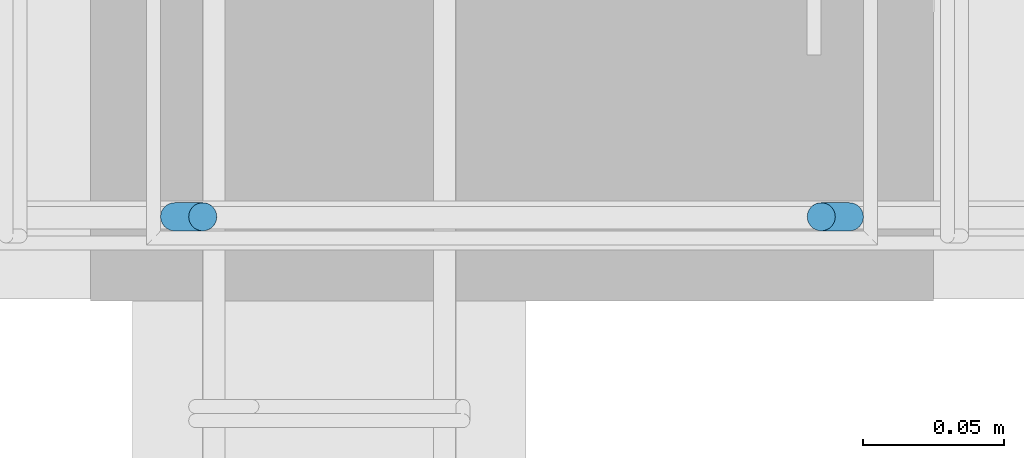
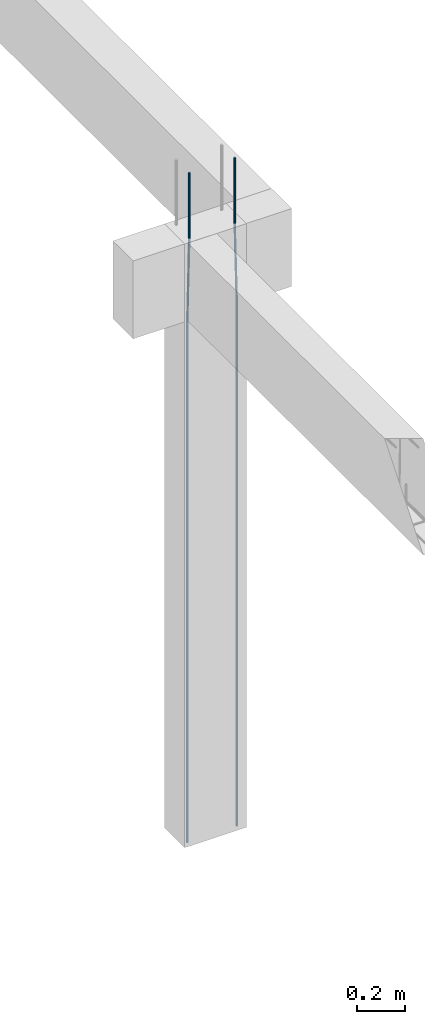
# One storey, part 117 of 236: 2 reinforcing bars.
"""IFC4 building model written with IfcOpenShell, lengths in centimetres."""

from ifc_helpers import new_model, entity, si_unit, derived_unit, frame, origin_with_axes, place, context, project, spatial, element, save


model = new_model("IFC4")

# Units and contexts
model_context = context("Model", 3, precision=1e-05, world=origin_with_axes(), identifier="Body")
ifc_project = project(units=[si_unit("LENGTHUNIT", "METRE", prefix="CENTI"), si_unit("VOLUMEUNIT", "CUBIC_METRE"), si_unit("AREAUNIT", "SQUARE_METRE"), si_unit("POWERUNIT", "WATT"), si_unit("LUMINOUSFLUXUNIT", "LUMEN"), si_unit("ELECTRICCURRENTUNIT", "AMPERE"), si_unit("PRESSUREUNIT", "PASCAL", prefix="KILO"), si_unit("MASSUNIT", "GRAM", prefix="KILO"), si_unit("PLANEANGLEUNIT", "RADIAN"), derived_unit("VOLUMETRICFLOWRATEUNIT", [(si_unit("LENGTHUNIT", "METRE"), 3), (si_unit("TIMEUNIT", "SECOND"), -1)])], contexts=[model_context])

# Site, building, storey
site_placement = place(None, frame((-4000.0, 0.0, 0.0), z_axis=(0.0, 0.0, 1.0), x_axis=(1.0, 0.0, 0.0)))
site = spatial("IfcSite", under=ifc_project, at=site_placement, Name="PADRÃO")
building_placement = place(site_placement, frame((0.0, 0.0, -14.0)))
building = spatial("IfcBuilding", under=site, at=building_placement, Name="CRECHE PRÉ-ESCOLA TIPO 2")
placement_1 = place(building_placement, origin_with_axes())
placement_2 = place(placement_1, frame((0.0, 0.0, 30.0), z_axis=(0.0, 0.0, 1.0), x_axis=(1.0, 0.0, 0.0)))
storey_placement = place(placement_2, frame((0.0, 0.0, 310.0), z_axis=(0.0, 0.0, 1.0), x_axis=(1.0, 0.0, 0.0)))
storey = spatial("IfcBuildingStorey", under=building, at=storey_placement, Name="TERREO", CompositionType="ELEMENT", Elevation=326.0)

# Reinforcing bars
reinforcing_bar_1_placement = place(storey_placement, frame((3361.0, 3194.52, 33.3573001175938), z_axis=(0.0, 0.0, 1.0), x_axis=(1.0, 0.0, 0.0)))
element("IfcReinforcingBar", 1, at=reinforcing_bar_1_placement, inside=storey, Name="P56 - Longitudinal", BarLength=0.0, CrossSectionArea=7.853981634e-05, NominalDiameter=1.0, PredefinedType="MAIN", context=model_context, shape_type="AdvancedSweptSolid", body=[
    entity("IfcSweptDiskSolid", entity("IfcCompositeCurve", [entity("IfcCompositeCurveSegment", "CONTINUOUS", True, entity("IfcPolyline", [entity("IfcCartesianPoint", [-0.5, 0.0, -343.357300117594]), entity("IfcCartesianPoint", [-0.5, 0.0, -73.3573001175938])])), entity("IfcCompositeCurveSegment", "CONTINUOUS", True, entity("IfcPolyline", [entity("IfcCartesianPoint", [-0.5, 0.0, -73.3573001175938]), entity("IfcCartesianPoint", [0.5, 0.0, -33.3573001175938])])), entity("IfcCompositeCurveSegment", "CONTINUOUS", True, entity("IfcPolyline", [entity("IfcCartesianPoint", [0.5, 0.0, -33.3573001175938]), entity("IfcCartesianPoint", [0.5, 0.0, 0.0])]))], False), 0.5),
])
reinforcing_bar_2_placement = place(storey_placement, frame((3384.0, 3194.52, 33.3573001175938), z_axis=(0.0, 0.0, 1.0), x_axis=(1.0, 0.0, 0.0)))
element("IfcReinforcingBar", 2, at=reinforcing_bar_2_placement, inside=storey, Name="P56 - Longitudinal", BarLength=0.0, CrossSectionArea=7.853981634e-05, NominalDiameter=1.0, PredefinedType="MAIN", context=model_context, shape_type="AdvancedSweptSolid", body=[
    entity("IfcSweptDiskSolid", entity("IfcCompositeCurve", [entity("IfcCompositeCurveSegment", "CONTINUOUS", True, entity("IfcPolyline", [entity("IfcCartesianPoint", [0.5, 0.0, -343.357300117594]), entity("IfcCartesianPoint", [0.5, 0.0, -73.3573001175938])])), entity("IfcCompositeCurveSegment", "CONTINUOUS", True, entity("IfcPolyline", [entity("IfcCartesianPoint", [0.5, 0.0, -73.3573001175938]), entity("IfcCartesianPoint", [-0.5, 0.0, -33.3573001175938])])), entity("IfcCompositeCurveSegment", "CONTINUOUS", True, entity("IfcPolyline", [entity("IfcCartesianPoint", [-0.5, 0.0, -33.3573001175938]), entity("IfcCartesianPoint", [-0.5, 0.0, 0.0])]))], False), 0.5),
])

save(model, "model.ifc")
